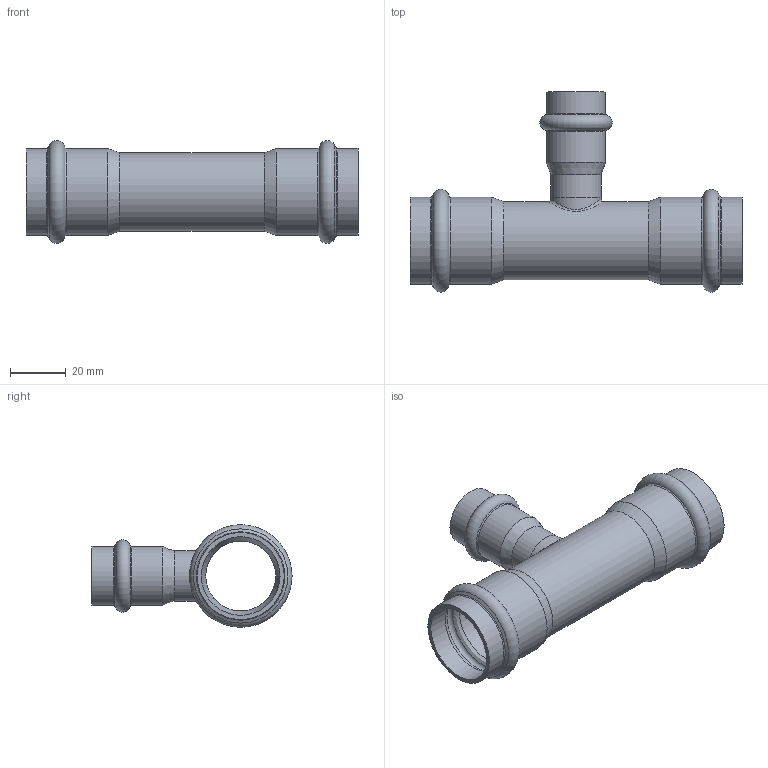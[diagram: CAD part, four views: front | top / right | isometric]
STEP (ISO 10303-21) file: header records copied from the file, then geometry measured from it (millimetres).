
FILE_DESCRIPTION((''),'2;1');
FILE_NAME('G:\Technics\CAD\Bauteile\028\69130281828(1).stp','2008-02-26T09:22:16',('herberg'),(''),'Autodesk Inventor 2008','Autodesk Inventor 2008','');
FILE_SCHEMA(('AUTOMOTIVE_DESIGN { 1 0 10303 214 1 1 1 1 }'));
Length unit declared in the file: millimetre
Products named in the file (3): 69130281828(1); LM_69130281828(1); 6924318HM(1)
Assembly tree (2 placements, depth 2):
  69130281828(1)
    LM_69130281828(1)
    6924318HM(1)
Bounding box: 119 x 71.69 x 36.79 mm (x, y, z)
Volume: 20465.2 mm3; surface area: 27808.7 mm2
Topology: 2 solids, 2 shells, 55 faces, 115 edges, 64 vertices
Faces by surface type: cylinder 18, bspline 13, cone 12, torus 7, plane 5
Full cylindrical faces by diameter (mm): 15 x2, 18 x2, 18.15 x2, 21.15 x2, 25 x1, 28 x1, 28.2 x4, 31.2 x4
Entity records: 2668 total; most frequent: CARTESIAN_POINT 1687, DIRECTION 200, ORIENTED_EDGE 116, EDGE_LOOP 110, AXIS2_PLACEMENT_3D 100, EDGE_CURVE 58, VERTEX_POINT 56, FACE_OUTER_BOUND 55
